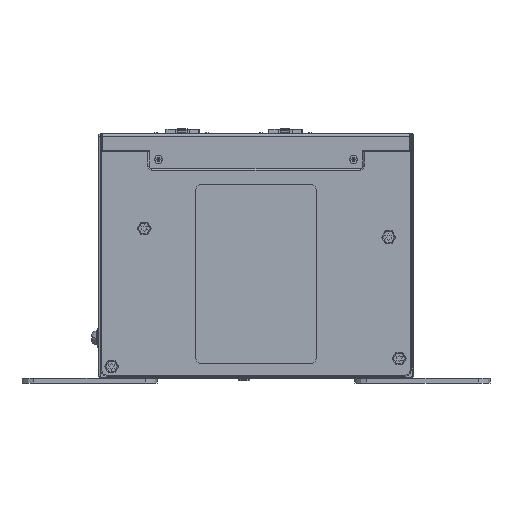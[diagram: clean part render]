
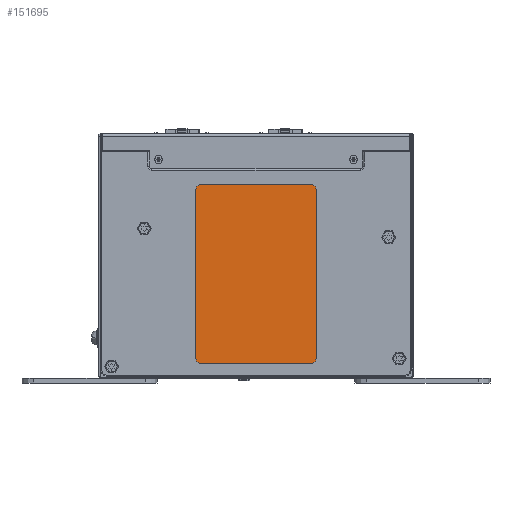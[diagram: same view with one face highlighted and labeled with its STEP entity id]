
A CAD part, front view. The second image highlights one B-rep face of the part: STEP entity #151695.
In plain terms, the highlighted planar face has unit normal (0, -1, 0).
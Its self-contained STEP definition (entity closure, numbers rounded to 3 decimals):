
#144553=CARTESIAN_POINT('',(22.9,-7.8,-44.1));
#144554=DIRECTION('',(0.,1.,0.));
#144555=DIRECTION('',(1.,0.,0.));
#144556=AXIS2_PLACEMENT_3D('',#144553,#144554,#144555);
#144558=CARTESIAN_POINT('',(-24.9,-7.8,-44.1));
#144559=DIRECTION('',(0.,1.,0.));
#144560=DIRECTION('',(0.,0.,-1.));
#144561=AXIS2_PLACEMENT_3D('',#144558,#144559,#144560);
#144563=CARTESIAN_POINT('',(-24.9,-7.8,28.7));
#144564=DIRECTION('',(0.,1.,0.));
#144565=DIRECTION('',(-1.,0.,0.));
#144566=AXIS2_PLACEMENT_3D('',#144563,#144564,#144565);
#144568=CARTESIAN_POINT('',(22.9,-7.8,28.7));
#144569=DIRECTION('',(0.,1.,0.));
#144570=DIRECTION('',(0.,0.,1.));
#144571=AXIS2_PLACEMENT_3D('',#144568,#144569,#144570);
#144573=DIRECTION('',(0.,0.,-1.));
#144574=VECTOR('',#144573,72.8);
#144575=CARTESIAN_POINT('',(24.9,-7.8,28.7));
#144576=LINE('',#144575,#144574);
#144581=DIRECTION('',(1.,0.,0.));
#144582=VECTOR('',#144581,47.8);
#144583=CARTESIAN_POINT('',(-24.9,-7.8,-46.1));
#144584=LINE('',#144583,#144582);
#144597=DIRECTION('',(0.,0.,-1.));
#144598=VECTOR('',#144597,72.8);
#144599=CARTESIAN_POINT('',(-26.9,-7.8,28.7));
#144600=LINE('',#144599,#144598);
#144613=DIRECTION('',(-1.,0.,0.));
#144614=VECTOR('',#144613,47.8);
#144615=CARTESIAN_POINT('',(22.9,-7.8,30.7));
#144616=LINE('',#144615,#144614);
#147072=CARTESIAN_POINT('',(24.9,-7.8,-44.1));
#147073=VERTEX_POINT('',#147072);
#147074=CARTESIAN_POINT('',(22.9,-7.8,-46.1));
#147075=VERTEX_POINT('',#147074);
#147076=CARTESIAN_POINT('',(24.9,-7.8,28.7));
#147077=VERTEX_POINT('',#147076);
#147078=CARTESIAN_POINT('',(22.9,-7.8,30.7));
#147079=VERTEX_POINT('',#147078);
#147080=CARTESIAN_POINT('',(-24.9,-7.8,30.7));
#147081=VERTEX_POINT('',#147080);
#147082=CARTESIAN_POINT('',(-26.9,-7.8,28.7));
#147083=VERTEX_POINT('',#147082);
#147084=CARTESIAN_POINT('',(-26.9,-7.8,-44.1));
#147085=VERTEX_POINT('',#147084);
#147086=CARTESIAN_POINT('',(-24.9,-7.8,-46.1));
#147087=VERTEX_POINT('',#147086);
#151674=CARTESIAN_POINT('',(-1.,-7.8,-7.7));
#151675=DIRECTION('',(0.,1.,0.));
#151676=DIRECTION('',(0.,0.,1.));
#151677=AXIS2_PLACEMENT_3D('',#151674,#151675,#151676);
#151678=PLANE('',#151677);
#151679=ORIENTED_EDGE('',*,*,#151655,.T.);
#151681=ORIENTED_EDGE('',*,*,#151680,.F.);
#151683=ORIENTED_EDGE('',*,*,#151682,.T.);
#151685=ORIENTED_EDGE('',*,*,#151684,.F.);
#151687=ORIENTED_EDGE('',*,*,#151686,.T.);
#151689=ORIENTED_EDGE('',*,*,#151688,.F.);
#151691=ORIENTED_EDGE('',*,*,#151690,.T.);
#151692=ORIENTED_EDGE('',*,*,#151666,.T.);
#151693=EDGE_LOOP('',(#151679,#151681,#151683,#151685,#151687,#151689,#151691,
#151692));
#151694=FACE_OUTER_BOUND('',#151693,.F.);
#144557=CIRCLE('',#144556,2.);
#144562=CIRCLE('',#144561,2.);
#144567=CIRCLE('',#144566,2.);
#144572=CIRCLE('',#144571,2.);
#151655=EDGE_CURVE('',#147073,#147075,#144557,.T.);
#151666=EDGE_CURVE('',#147077,#147073,#144576,.T.);
#151680=EDGE_CURVE('',#147087,#147075,#144584,.T.);
#151682=EDGE_CURVE('',#147087,#147085,#144562,.T.);
#151684=EDGE_CURVE('',#147083,#147085,#144600,.T.);
#151686=EDGE_CURVE('',#147083,#147081,#144567,.T.);
#151688=EDGE_CURVE('',#147079,#147081,#144616,.T.);
#151690=EDGE_CURVE('',#147079,#147077,#144572,.T.);
#151695=ADVANCED_FACE('',(#151694),#151678,.F.);
